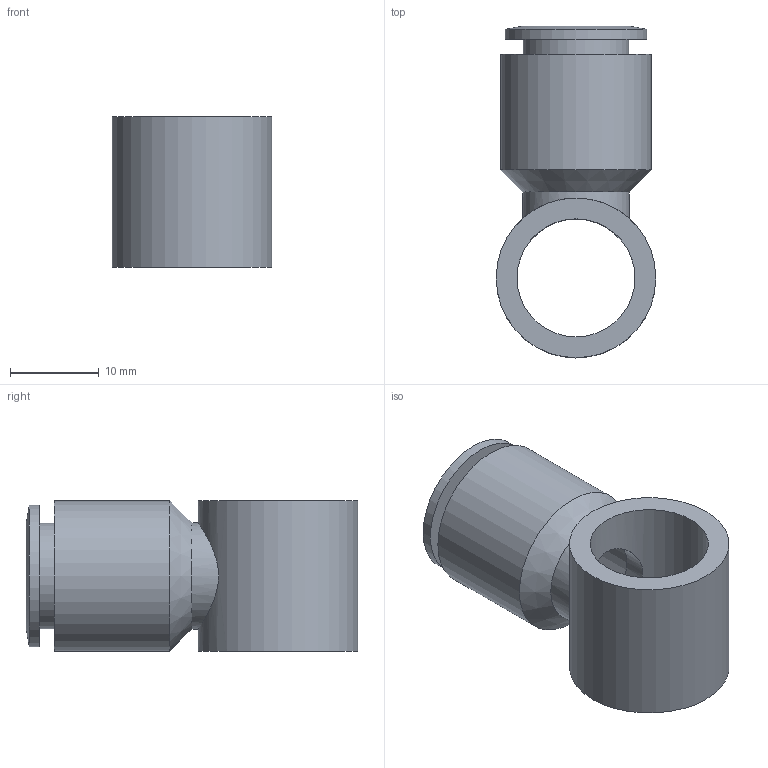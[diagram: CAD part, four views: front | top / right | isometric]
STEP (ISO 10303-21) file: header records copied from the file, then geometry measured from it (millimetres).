
FILE_DESCRIPTION((''),'2;1');
FILE_NAME('C:\Documents and Settings\rivolro1\Documenti\copia di Raccordi\PLASTICA\T13XXXX\T131014.stp','2007-10-30T17:37:41',('Rivolro1'),(''),'Autodesk Inventor 2008','Autodesk Inventor 2008','');
FILE_SCHEMA(('AUTOMOTIVE_DESIGN { 1 0 10303 214 1 1 1 1 }'));
Length unit declared in the file: millimetre
Products named in the file (1): T131014
Bounding box: 18 x 37.4 x 17 mm (x, y, z)
Volume: 4178.2 mm3; surface area: 3831.7 mm2
Topology: 1 solids, 1 shells, 16 faces, 27 edges, 17 vertices
Faces by surface type: cylinder 6, plane 5, bspline 3, cone 2
Full cylindrical faces by diameter (mm): 11.9 x1, 12 x1, 13.3 x1, 16 x1, 17 x1, 18 x1
Entity records: 552 total; most frequent: CARTESIAN_POINT 235, DIRECTION 58, ORIENTED_EDGE 34, EDGE_LOOP 34, AXIS2_PLACEMENT_3D 29, FACE_BOUND 18, VERTEX_POINT 17, EDGE_CURVE 17
